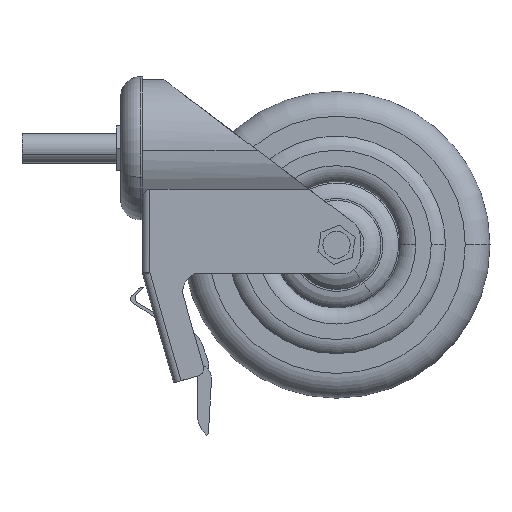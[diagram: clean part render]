
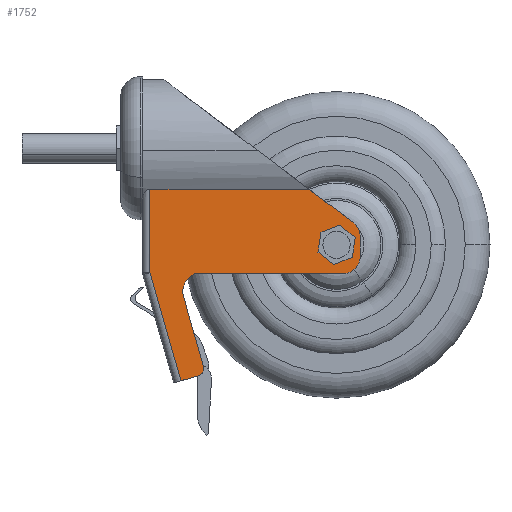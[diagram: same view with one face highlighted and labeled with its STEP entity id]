
A CAD part, front view. The second image highlights one B-rep face of the part: STEP entity #1752.
In plain terms, the highlighted planar face has unit normal (0, -1, 0) as drawn and (1, 0, 0) by its records, which use the part's own axes.
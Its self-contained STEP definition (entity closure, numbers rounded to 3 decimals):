
#9 = DIRECTION ( 'NONE',  ( 0., 1., 0. ) ) ;
#97 = CARTESIAN_POINT ( 'NONE',  ( 12.89, 56.579, 2.881 ) ) ;
#135 = CARTESIAN_POINT ( 'NONE',  ( 12.89, 45.335, 78.355 ) ) ;
#154 = AXIS2_PLACEMENT_3D ( 'NONE', #3376, #196, #3912 ) ;
#174 = CARTESIAN_POINT ( 'NONE',  ( 12.89, 57., 80.881 ) ) ;
#196 = DIRECTION ( 'NONE',  ( 1., 0., 0. ) ) ;
#435 = CARTESIAN_POINT ( 'NONE',  ( 12.89, 41.945, 80.881 ) ) ;
#472 = DIRECTION ( 'NONE',  ( 0., 0., 1. ) ) ;
#473 = VERTEX_POINT ( 'NONE', #174 ) ;
#656 = DIRECTION ( 'NONE',  ( 0., 0., 1. ) ) ;
#681 = CARTESIAN_POINT ( 'NONE',  ( 12.89, 45.335, 83.355 ) ) ;
#728 = CIRCLE ( 'NONE', #3238, 5. ) ;
#850 = CARTESIAN_POINT ( 'NONE',  ( 12.89, 95.361, 21.68 ) ) ;
#909 = CARTESIAN_POINT ( 'NONE',  ( 12.89, 22.77, 2.881 ) ) ;
#931 = CARTESIAN_POINT ( 'NONE',  ( 12.89, 22.77, 88. ) ) ;
#961 = DIRECTION ( 'NONE',  ( 0., 0., 1. ) ) ;
#1015 = AXIS2_PLACEMENT_3D ( 'NONE', #850, #4597, #1385 ) ;
#1049 = ORIENTED_EDGE ( 'NONE', *, *, #6143, .F. ) ;
#1143 = CARTESIAN_POINT ( 'NONE',  ( 12.89, 57., -0.119 ) ) ;
#1370 = EDGE_CURVE ( 'NONE', #5516, #2866, #6301, .T. ) ;
#1385 = DIRECTION ( 'NONE',  ( 0., 0., 1. ) ) ;
#1408 = CARTESIAN_POINT ( 'NONE',  ( 12.89, 57., 87.881 ) ) ;
#1451 = ORIENTED_EDGE ( 'NONE', *, *, #5221, .F. ) ;
#1471 = EDGE_CURVE ( 'NONE', #4685, #4251, #6455, .T. ) ;
#1522 = CARTESIAN_POINT ( 'NONE',  ( 12.89, 41.945, 87.881 ) ) ;
#1655 = PLANE ( 'NONE',  #4445 ) ;
#1733 = DIRECTION ( 'NONE',  ( 1., 0., 0. ) ) ;
#1752 = ADVANCED_FACE ( 'NONE', ( #4591, #6012 ), #1655, .F. ) ;
#1779 = EDGE_CURVE ( 'NONE', #473, #5052, #3165, .T. ) ;
#1807 = VECTOR ( 'NONE', #2359, 1000. ) ;
#1985 = EDGE_CURVE ( 'NONE', #3916, #2029, #728, .T. ) ;
#1996 = DIRECTION ( 'NONE',  ( 0., 0., -1. ) ) ;
#1999 = EDGE_CURVE ( 'NONE', #473, #2132, #6280, .T. ) ;
#2029 = VERTEX_POINT ( 'NONE', #681 ) ;
#2047 = CIRCLE ( 'NONE', #4152, 7. ) ;
#2055 = VECTOR ( 'NONE', #4098, 1000. ) ;
#2102 = DIRECTION ( 'NONE',  ( -1., 0., 0. ) ) ;
#2103 = DIRECTION ( 'NONE',  ( 0., 0.275, -0.961 ) ) ;
#2132 = VERTEX_POINT ( 'NONE', #4496 ) ;
#2245 = ORIENTED_EDGE ( 'NONE', *, *, #3480, .F. ) ;
#2297 = ORIENTED_EDGE ( 'NONE', *, *, #1471, .T. ) ;
#2359 = DIRECTION ( 'NONE',  ( 0., 0.961, 0.275 ) ) ;
#2364 = CARTESIAN_POINT ( 'NONE',  ( 12.89, 45.335, 73.355 ) ) ;
#2409 = CARTESIAN_POINT ( 'NONE',  ( 12.89, 22.77, 67.084 ) ) ;
#2459 = VECTOR ( 'NONE', #5521, 1000. ) ;
#2636 = CARTESIAN_POINT ( 'NONE',  ( 12.89, 57., -0.119 ) ) ;
#2637 = CARTESIAN_POINT ( 'NONE',  ( 12.89, 101.107, 12.519 ) ) ;
#2764 = VERTEX_POINT ( 'NONE', #1522 ) ;
#2782 = ORIENTED_EDGE ( 'NONE', *, *, #1999, .T. ) ;
#2815 = CARTESIAN_POINT ( 'NONE',  ( 12.89, 95.361, 21.68 ) ) ;
#2821 = VERTEX_POINT ( 'NONE', #4768 ) ;
#2866 = VERTEX_POINT ( 'NONE', #4373 ) ;
#2927 = VECTOR ( 'NONE', #1996, 1000. ) ;
#2951 = EDGE_CURVE ( 'NONE', #4685, #2821, #6128, .T. ) ;
#2977 = CARTESIAN_POINT ( 'NONE',  ( 12.89, 2.874, 40.706 ) ) ;
#3081 = EDGE_LOOP ( 'NONE', ( #1049, #3536, #4391, #2245, #1451, #6865, #2782, #6140, #6696, #6213, #2297, #6380, #4652 ) ) ;
#3165 = LINE ( 'NONE', #2636, #3315 ) ;
#3201 = CARTESIAN_POINT ( 'NONE',  ( 12.89, 57., 20.944 ) ) ;
#3238 = AXIS2_PLACEMENT_3D ( 'NONE', #135, #3841, #656 ) ;
#3291 = LINE ( 'NONE', #3737, #5851 ) ;
#3315 = VECTOR ( 'NONE', #4264, 1000. ) ;
#3320 = VERTEX_POINT ( 'NONE', #6579 ) ;
#3344 = DIRECTION ( 'NONE',  ( 0., 0., 1. ) ) ;
#3376 = CARTESIAN_POINT ( 'NONE',  ( 12.89, 64.217, 24.051 ) ) ;
#3401 = CARTESIAN_POINT ( 'NONE',  ( 12.89, 100.28, 15.403 ) ) ;
#3464 = VECTOR ( 'NONE', #2103, 1000. ) ;
#3480 = EDGE_CURVE ( 'NONE', #4079, #3320, #6096, .T. ) ;
#3536 = ORIENTED_EDGE ( 'NONE', *, *, #1370, .T. ) ;
#3547 = ORIENTED_EDGE ( 'NONE', *, *, #1985, .T. ) ;
#3664 = VERTEX_POINT ( 'NONE', #3401 ) ;
#3668 = DIRECTION ( 'NONE',  ( -1., 0., 0. ) ) ;
#3737 = CARTESIAN_POINT ( 'NONE',  ( 12.89, 57., 2.881 ) ) ;
#3763 = CARTESIAN_POINT ( 'NONE',  ( 12.89, 98.245, 22.507 ) ) ;
#3773 = EDGE_CURVE ( 'NONE', #2866, #3320, #6942, .T. ) ;
#3841 = DIRECTION ( 'NONE',  ( -1., 0., 0. ) ) ;
#3879 = CARTESIAN_POINT ( 'NONE',  ( 12.89, 100.28, 15.403 ) ) ;
#3912 = DIRECTION ( 'NONE',  ( 0., 0., 1. ) ) ;
#3916 = VERTEX_POINT ( 'NONE', #2364 ) ;
#3943 = AXIS2_PLACEMENT_3D ( 'NONE', #4937, #1733, #5489 ) ;
#4079 = VERTEX_POINT ( 'NONE', #5188 ) ;
#4098 = DIRECTION ( 'NONE',  ( 0., -1., 0. ) ) ;
#4152 = AXIS2_PLACEMENT_3D ( 'NONE', #435, #4168, #961 ) ;
#4158 = EDGE_CURVE ( 'NONE', #2132, #2764, #6174, .T. ) ;
#4168 = DIRECTION ( 'NONE',  ( 1., 0., 0. ) ) ;
#4251 = VERTEX_POINT ( 'NONE', #909 ) ;
#4264 = DIRECTION ( 'NONE',  ( 0., 0., -1. ) ) ;
#4310 = EDGE_CURVE ( 'NONE', #5595, #3664, #6753, .T. ) ;
#4373 = CARTESIAN_POINT ( 'NONE',  ( 12.89, 95.361, 24.68 ) ) ;
#4391 = ORIENTED_EDGE ( 'NONE', *, *, #3773, .T. ) ;
#4445 = AXIS2_PLACEMENT_3D ( 'NONE', #1143, #2102, #5876 ) ;
#4496 = CARTESIAN_POINT ( 'NONE',  ( 12.89, 50., 87.881 ) ) ;
#4591 = FACE_BOUND ( 'NONE', #6767, .T. ) ;
#4597 = DIRECTION ( 'NONE',  ( 1., 0., 0. ) ) ;
#4652 = ORIENTED_EDGE ( 'NONE', *, *, #4310, .T. ) ;
#4685 = VERTEX_POINT ( 'NONE', #2409 ) ;
#4768 = CARTESIAN_POINT ( 'NONE',  ( 12.89, 36.356, 85.096 ) ) ;
#4855 = VECTOR ( 'NONE', #6729, 1000. ) ;
#4937 = CARTESIAN_POINT ( 'NONE',  ( 12.89, 50., 80.881 ) ) ;
#5052 = VERTEX_POINT ( 'NONE', #3201 ) ;
#5188 = CARTESIAN_POINT ( 'NONE',  ( 12.89, 66.381, 16.498 ) ) ;
#5221 = EDGE_CURVE ( 'NONE', #5052, #4079, #6947, .T. ) ;
#5282 = ORIENTED_EDGE ( 'NONE', *, *, #6933, .T. ) ;
#5489 = DIRECTION ( 'NONE',  ( 0., 0., 1. ) ) ;
#5516 = VERTEX_POINT ( 'NONE', #3763 ) ;
#5521 = DIRECTION ( 'NONE',  ( 0., 0.961, 0.275 ) ) ;
#5595 = VERTEX_POINT ( 'NONE', #97 ) ;
#5606 = CARTESIAN_POINT ( 'NONE',  ( 12.89, 97.418, 25.391 ) ) ;
#5851 = VECTOR ( 'NONE', #9, 1000. ) ;
#5876 = DIRECTION ( 'NONE',  ( 0., 0., 1. ) ) ;
#6012 = FACE_OUTER_BOUND ( 'NONE', #3081, .T. ) ;
#6096 = LINE ( 'NONE', #5606, #1807 ) ;
#6128 = LINE ( 'NONE', #2977, #4855 ) ;
#6140 = ORIENTED_EDGE ( 'NONE', *, *, #4158, .T. ) ;
#6143 = EDGE_CURVE ( 'NONE', #5516, #3664, #6172, .T. ) ;
#6172 = LINE ( 'NONE', #2637, #3464 ) ;
#6174 = LINE ( 'NONE', #1408, #2055 ) ;
#6190 = EDGE_CURVE ( 'NONE', #4251, #5595, #3291, .T. ) ;
#6213 = ORIENTED_EDGE ( 'NONE', *, *, #2951, .F. ) ;
#6242 = CIRCLE ( 'NONE', #6522, 5. ) ;
#6280 = CIRCLE ( 'NONE', #3943, 7. ) ;
#6301 = CIRCLE ( 'NONE', #1015, 3. ) ;
#6380 = ORIENTED_EDGE ( 'NONE', *, *, #6190, .T. ) ;
#6455 = LINE ( 'NONE', #931, #2927 ) ;
#6522 = AXIS2_PLACEMENT_3D ( 'NONE', #6892, #3668, #472 ) ;
#6566 = DIRECTION ( 'NONE',  ( 1., 0., 0. ) ) ;
#6569 = AXIS2_PLACEMENT_3D ( 'NONE', #2815, #6566, #3344 ) ;
#6579 = CARTESIAN_POINT ( 'NONE',  ( 12.89, 94.535, 24.564 ) ) ;
#6662 = EDGE_CURVE ( 'NONE', #2764, #2821, #2047, .T. ) ;
#6696 = ORIENTED_EDGE ( 'NONE', *, *, #6662, .T. ) ;
#6729 = DIRECTION ( 'NONE',  ( 0., 0.602, 0.798 ) ) ;
#6753 = LINE ( 'NONE', #3879, #2459 ) ;
#6767 = EDGE_LOOP ( 'NONE', ( #5282, #3547 ) ) ;
#6865 = ORIENTED_EDGE ( 'NONE', *, *, #1779, .F. ) ;
#6892 = CARTESIAN_POINT ( 'NONE',  ( 12.89, 45.335, 78.355 ) ) ;
#6933 = EDGE_CURVE ( 'NONE', #2029, #3916, #6242, .T. ) ;
#6942 = CIRCLE ( 'NONE', #6569, 3. ) ;
#6947 = CIRCLE ( 'NONE', #154, 7.857 ) ;
